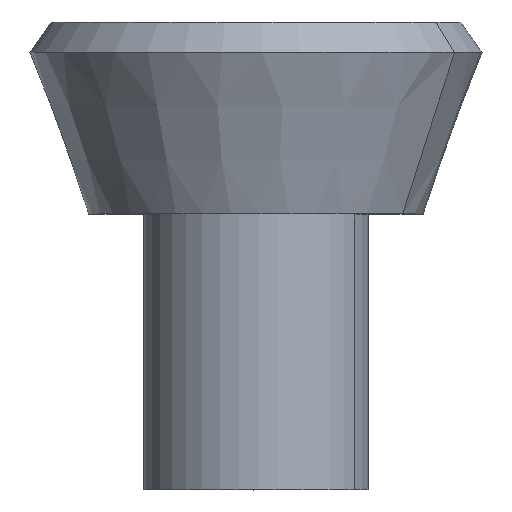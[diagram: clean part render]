
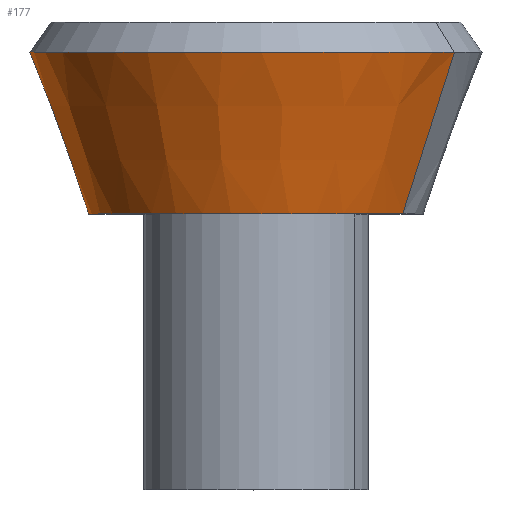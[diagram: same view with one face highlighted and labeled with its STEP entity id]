
A CAD part, top view. The second image highlights one B-rep face of the part: STEP entity #177.
In plain terms, the highlighted conical face has half-angle 20 degrees and reference radius 91 mm.
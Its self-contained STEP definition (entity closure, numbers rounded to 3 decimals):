
#114=CARTESIAN_POINT('Axis2P3D Location',(0.,0.,0.)) ;
#118=CARTESIAN_POINT('Vertex',(79.86,0.,43.628)) ;
#120=CARTESIAN_POINT('Vertex',(-79.86,0.,-43.628)) ;
#147=CARTESIAN_POINT('Axis2P3D Location',(0.,0.,0.)) ;
#152=CARTESIAN_POINT('Line Origine',(93.902,43.961,51.299)) ;
#156=CARTESIAN_POINT('Vertex',(107.944,87.923,58.97)) ;
#159=CARTESIAN_POINT('Axis2P3D Location',(0.,87.923,0.)) ;
#163=CARTESIAN_POINT('Vertex',(-107.944,87.923,-58.97)) ;
#166=CARTESIAN_POINT('Line Origine',(-93.902,43.961,-51.299)) ;
#115=DIRECTION('Axis2P3D Direction',(0.,-1.,0.)) ;
#148=DIRECTION('Axis2P3D Direction',(-0.,1.,-0.)) ;
#149=DIRECTION('Axis2P3D XDirection',(0.878,0.,0.479)) ;
#153=DIRECTION('Vector Direction',(0.3,0.94,0.164)) ;
#160=DIRECTION('Axis2P3D Direction',(0.,1.,-0.)) ;
#167=DIRECTION('Vector Direction',(-0.3,0.94,-0.164)) ;
#116=AXIS2_PLACEMENT_3D('Circle Axis2P3D',#114,#115,$) ;
#150=AXIS2_PLACEMENT_3D('Cone Axis2P3D',#147,#148,#149) ;
#161=AXIS2_PLACEMENT_3D('Circle Axis2P3D',#159,#160,$) ;
#172=ORIENTED_EDGE('',*,*,#122,.F.) ;
#173=ORIENTED_EDGE('',*,*,#158,.T.) ;
#174=ORIENTED_EDGE('',*,*,#165,.T.) ;
#175=ORIENTED_EDGE('',*,*,#170,.F.) ;
#154=VECTOR('Line Direction',#153,1.) ;
#168=VECTOR('Line Direction',#167,1.) ;
#177=ADVANCED_FACE('PartBody',(#176),#151,.T.) ;
#117=CIRCLE('generated circle',#116,91.) ;
#162=CIRCLE('generated circle',#161,123.001) ;
#151=CONICAL_SURFACE('Cone',#150,91.,0.349) ;
#122=EDGE_CURVE('',#119,#121,#117,.T.) ;
#158=EDGE_CURVE('',#119,#157,#155,.T.) ;
#165=EDGE_CURVE('',#157,#164,#162,.F.) ;
#170=EDGE_CURVE('',#121,#164,#169,.T.) ;
#171=EDGE_LOOP('',(#172,#173,#174,#175)) ;
#176=FACE_OUTER_BOUND('',#171,.T.) ;
#155=LINE('Line',#152,#154) ;
#169=LINE('Line',#166,#168) ;
#119=VERTEX_POINT('',#118) ;
#121=VERTEX_POINT('',#120) ;
#157=VERTEX_POINT('',#156) ;
#164=VERTEX_POINT('',#163) ;
